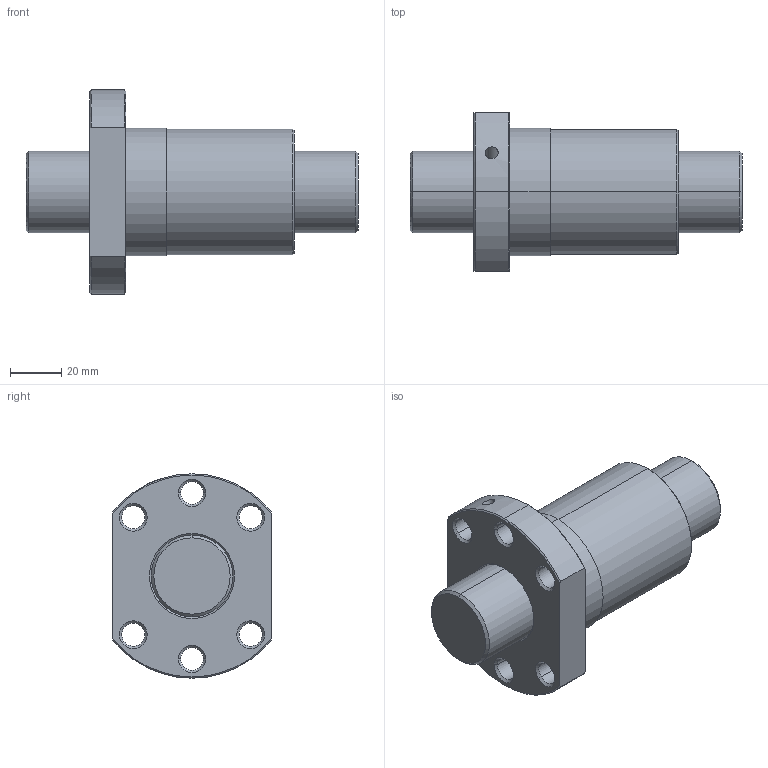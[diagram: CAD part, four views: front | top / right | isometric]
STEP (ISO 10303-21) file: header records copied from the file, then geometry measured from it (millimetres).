
FILE_DESCRIPTION(('no description'),'unknown implementation level');
FILE_NAME('R32_20T2_DEB_130_130_0_023_30.stp',' ',('HIWIN GmbH'),('CADClick - KiM GmbH - www.kimweb.de'),'unknown preprocess','ACIS','unknown authorization');
FILE_SCHEMA(('CONFIG_CONTROL_DESIGN'));
Length unit declared in the file: millimetre
Products named in the file (2): 1; 2
Bounding box: 130 x 62 x 80 mm (x, y, z)
Volume: 221586.3 mm3; surface area: 44887.7 mm2
Topology: 2 solids, 2 shells, 78 faces, 176 edges, 103 vertices
Faces by surface type: cone 44, cylinder 26, plane 8
Entity records: 2329 total; most frequent: CARTESIAN_POINT 440, DIRECTION 416, ORIENTED_EDGE 348, EDGE_CURVE 174, AXIS2_PLACEMENT_3D 172, VERTEX_POINT 103, EDGE_LOOP 95, CIRCLE 92
